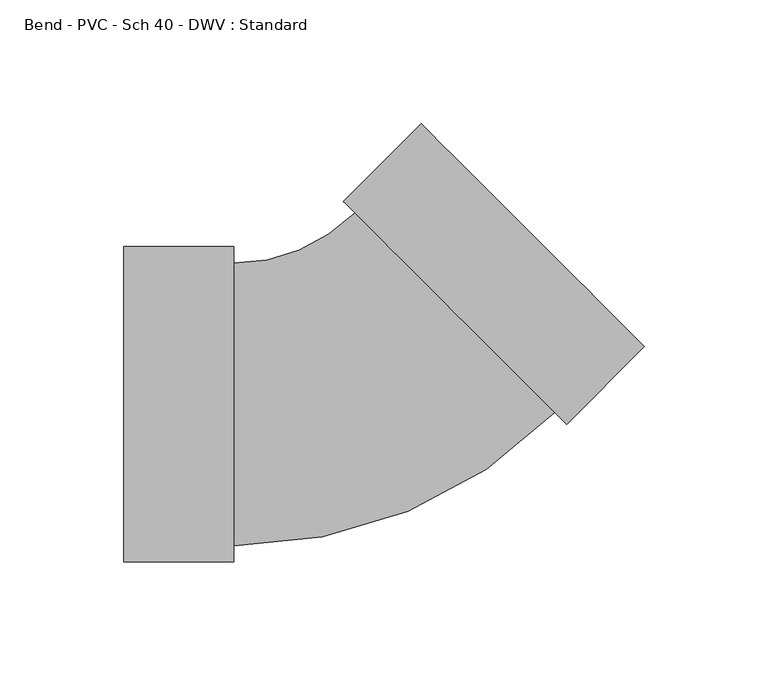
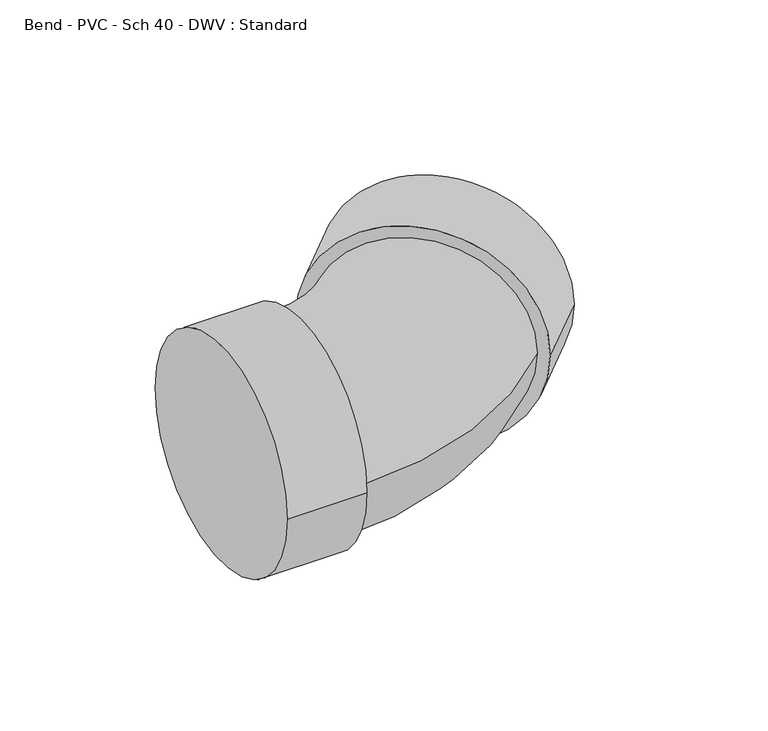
"""IFC4 building model written with IfcOpenShell, lengths in millimetres: pipe fitting geometry, Bend - PVC - Sch 40 - DWV : Standard."""

from ifc_helpers import new_model, si_unit, point, frame, origin, place, context, project, spatial, circle_curve, ellipse_curve, trimmed, source, transform, mapped, element, save
from ifc_brep_helpers import plane_surface, cylinder_surface, revolved_surface, advanced_brep


def bend_pvc_sch_40_dwv_standard_2978f41e(model_context):
    return source(origin(), model_context, "Body", "AdvancedBrep", [
        advanced_brep(
        [(-96.8502, -63.754, 0.0), (-96.8502, 63.754, 0.0), (-52.4002, -63.754, 0.0), (-52.4002, 63.754, 0.0), (-52.4002, -57.15, 0.0), (-52.4002, 57.15, 0.0), (-3.3776378, 77.4628622, 0.0), (77.4645117, -3.3395936, 0.0), (82.1353915, -8.0081799, 0.0), (-8.0485175, 82.1314486, 0.0), (113.5585687, 23.4304338, 0.0), (23.3746597, 113.5700622, 0.0)],
        [
            (0, 1, circle_curve(frame((-96.8502, 0.0, 0.0), z_axis=(-1.0, 0.0, 0.0), x_axis=(0.0, 1.0, 0.0)), 63.754)),
            (1, 0, circle_curve(frame((-96.8502, 0.0, 0.0), z_axis=(-1.0, 0.0, 0.0), x_axis=(0.0, 1.0, 0.0)), 63.754)),
            (2, 3, circle_curve(frame((-52.4002, 0.0, 0.0), z_axis=(1.0, 0.0, 0.0), x_axis=(0.0, 1.0, 0.0)), 63.754)),
            (3, 2, circle_curve(frame((-52.4002, 0.0, 0.0), z_axis=(1.0, 0.0, 0.0), x_axis=(0.0, 1.0, 0.0)), 63.754)),
            (4, 5, circle_curve(frame((-52.4002, 0.0, 0.0), z_axis=(-1.0, 0.0, 0.0), x_axis=(0.0, 1.0, 0.0)), 57.15)),
            (5, 4, circle_curve(frame((-52.4002, 0.0, 0.0), z_axis=(-1.0, 0.0, 0.0), x_axis=(0.0, 1.0, 0.0)), 57.15)),
            (0, 2),
            (3, 1),
            (6, 5, circle_curve(frame((-52.4002, 126.4613543, 0.0), z_axis=(0.0, 0.0, -1.0), x_axis=(0.0, -1.0, 0.0)), 69.3113543)),
            (4, 7, circle_curve(frame((-52.4002, 126.4613543, 0.0), z_axis=(0.0, 0.0, 1.0), x_axis=(0.0, -1.0, 0.0)), 183.6113543)),
            (7, 6, circle_curve(frame((37.043437, 37.0616343, 0.0), z_axis=(-0.7069331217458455, -0.7072803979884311, 0.0), x_axis=(-0.7072803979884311, 0.7069331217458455, 0.0)), 57.15)),
            (6, 7, circle_curve(frame((37.043437, 37.0616343, 0.0), z_axis=(-0.7069331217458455, -0.7072803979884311, 0.0), x_axis=(-0.7072803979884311, 0.7069331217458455, 0.0)), 57.15)),
            (8, 9, circle_curve(frame((37.043437, 37.0616343, 0.0), z_axis=(-0.7069331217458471, -0.7072803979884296, 0.0), x_axis=(-0.7072803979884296, 0.7069331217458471, 0.0)), 63.754)),
            (9, 8, circle_curve(frame((37.043437, 37.0616343, 0.0), z_axis=(-0.7069331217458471, -0.7072803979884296, 0.0), x_axis=(-0.7072803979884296, 0.7069331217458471, 0.0)), 63.754)),
            (10, 11, circle_curve(frame((68.4666142, 68.500248, 0.0), z_axis=(0.7069331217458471, 0.7072803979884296, 0.0), x_axis=(-0.7072803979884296, 0.7069331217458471, 0.0)), 63.754)),
            (11, 10, circle_curve(frame((68.4666142, 68.500248, 0.0), z_axis=(0.7069331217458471, 0.7072803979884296, 0.0), x_axis=(-0.7072803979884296, 0.7069331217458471, 0.0)), 63.754)),
            (8, 10),
            (11, 9),
        ],
        [
            plane_surface(frame((-96.8502, 0.0, 0.0), z_axis=(-1.0, 0.0, 0.0), x_axis=(0.0, 0.0, 1.0))),
            plane_surface(frame((-52.4002, 0.0, 0.0), z_axis=(1.0, 0.0, 0.0), x_axis=(0.0, 0.0, 1.0))),
            cylinder_surface(frame((-96.8502, 0.0, 0.0), z_axis=(-1.0, 0.0, 0.0), x_axis=(0.0, 1.0, 0.0)), 63.754),
            revolved_surface(trimmed(ellipse_curve(frame((-52.4002, 0.0, 0.0), z_axis=(-1.0, 0.0, 0.0), x_axis=(0.0, 1.0, 0.0)), 57.15, 57.15), [point((-52.4002, -57.15, 0.0))], [point((-52.4002, 57.15, 0.0))], True, "CARTESIAN"), (-52.4002, 126.4613543, 0.0), (0.0, 0.0, 1.0)),
            revolved_surface(trimmed(ellipse_curve(frame((-52.4002, 0.0, 0.0), z_axis=(-1.0, 0.0, 0.0), x_axis=(0.0, 1.0, 0.0)), 57.15, 57.15), [point((-52.4002, 57.15, 0.0))], [point((-52.4002, -57.15, 0.0))], True, "CARTESIAN"), (-52.4002, 126.4613543, 0.0), (0.0, 0.0, 1.0)),
            plane_surface(frame((37.043437, 37.0616343, 0.0), z_axis=(-0.7069331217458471, -0.7072803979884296, 0.0), x_axis=(0.0, 0.0, 1.0))),
            plane_surface(frame((68.4666142, 68.500248, 0.0), z_axis=(0.7069331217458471, 0.7072803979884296, 0.0), x_axis=(0.0, 0.0, 1.0))),
            cylinder_surface(frame((37.043437, 37.0616343, 0.0), z_axis=(-0.7069331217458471, -0.7072803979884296, 0.0), x_axis=(-0.7072803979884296, 0.7069331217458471, 0.0)), 63.754),
        ],
        [
            (0, [[1, 2]]),
            (1, [[3, 4], [5, 6]]),
            (2, [[-1, 7, -4, 8]]),
            (2, [[-2, -8, -3, -7]]),
            (3, [[9, -5, 10, 11]]),
            (4, [[-9, 12, -10, -6]]),
            (5, [[13, 14], [-11, -12]]),
            (6, [[15, 16]]),
            (7, [[-13, 17, -16, 18]]),
            (7, [[-14, -18, -15, -17]]),
        ],
    ),
    ])


if __name__ == "__main__":
    model = new_model("IFC4")
    model_context = context("Model", 3, world=origin())
    ifc_project = project(units=[si_unit("LENGTHUNIT", "METRE", prefix="MILLI")], contexts=[model_context])
    site = spatial("IfcSite", under=ifc_project)
    building = spatial("IfcBuilding", under=site)
    placement = place(None, origin())
    bend_pvc_sch_40_dwv_standard_shape = bend_pvc_sch_40_dwv_standard_2978f41e(model_context)
    element("IfcPipeFitting", 1, ObjectType="Bend - PVC - Sch 40 - DWV : Standard", at=placement, inside=building, context=model_context, shape_type="MappedRepresentation", body=[
        mapped(bend_pvc_sch_40_dwv_standard_shape, transform((0.0, 0.0, 0.0), x_axis=(1.0, 0.0, 0.0), y_axis=(0.0, 1.0, 0.0), z_axis=(0.0, 0.0, 1.0))),
    ])
    save(model, "model.ifc")
